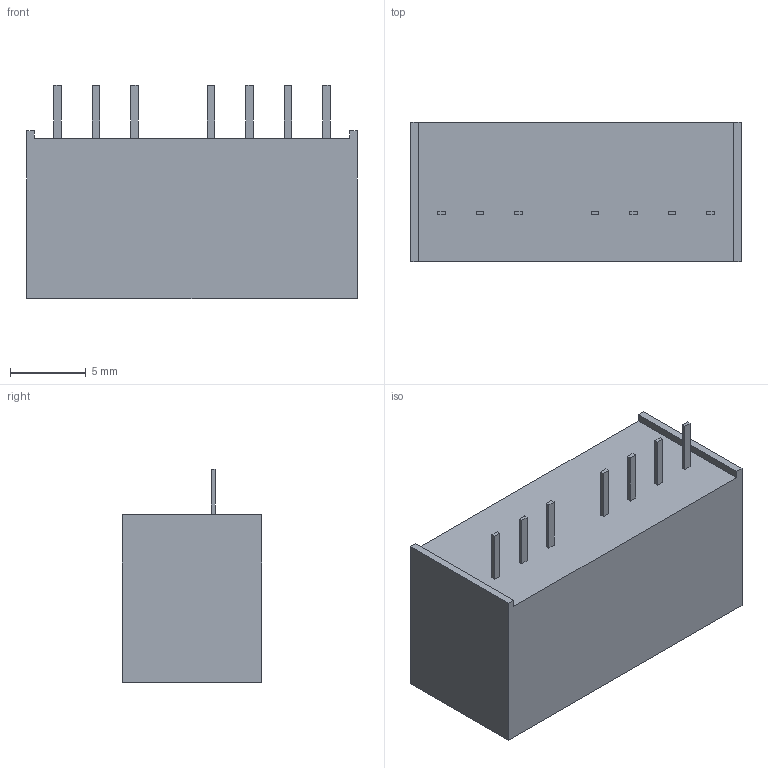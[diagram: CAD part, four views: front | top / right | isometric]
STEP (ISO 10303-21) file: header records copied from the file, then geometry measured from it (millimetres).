
FILE_DESCRIPTION(/* description */ ('Unknown'),/* implementation_level */ '2;1');
FILE_NAME(/* name */ 'IZ(S)',/* time_stamp */ '2017-11-28T13:29:08+08:00',/* author */ ('Unknown'),/* organization */ ('Unknown'),/* preprocessor_version */ 'ST-DEVELOPER v16.7',/* originating_system */ 'DEX',/* authorisation */ $);
FILE_SCHEMA (('AUTOMOTIVE_DESIGN {1 0 10303 214 3 1 1}'));
Length unit declared in the file: millimetre
Products named in the file (1): IZ(S)
Bounding box: 21.85 x 9.2 x 14.1 mm (x, y, z)
Volume: 2138.5 mm3; surface area: 1116.5 mm2
Topology: 1 solids, 1 shells, 45 faces, 108 edges, 72 vertices
Faces by surface type: plane 45
Entity records: 1312 total; most frequent: CARTESIAN_POINT 226, ORIENTED_EDGE 216, DIRECTION 200, EDGE_CURVE 108, LINE 108, VECTOR 108, VERTEX_POINT 72, EDGE_LOOP 52
